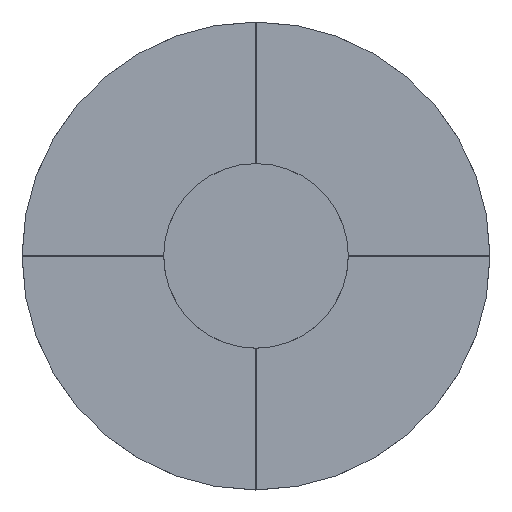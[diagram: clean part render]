
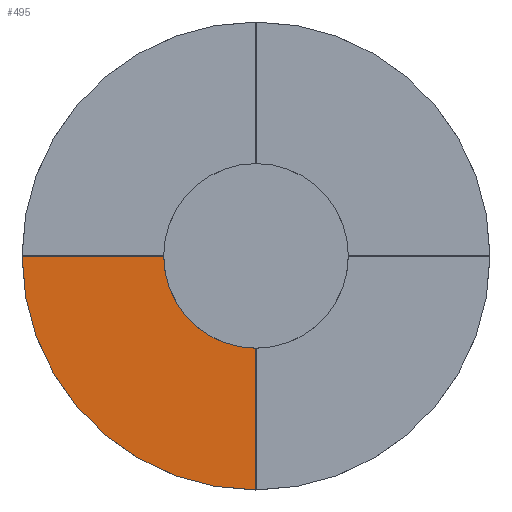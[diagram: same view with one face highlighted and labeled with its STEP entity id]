
A CAD part, top view. The second image highlights one B-rep face of the part: STEP entity #495.
In plain terms, the highlighted planar face has unit normal (0, 0, 1).
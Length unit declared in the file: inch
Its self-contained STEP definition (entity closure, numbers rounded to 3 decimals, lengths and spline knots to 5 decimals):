
#80=CARTESIAN_POINT('',(0.,0.,0.01));
#81=DIRECTION('',(0.,0.,1.));
#82=DIRECTION('',(-1.,-0.007,0.));
#83=AXIS2_PLACEMENT_3D('',#80,#81,#82);
#85=DIRECTION('',(0.,-1.,0.));
#86=VECTOR('',#85,0.109);
#87=CARTESIAN_POINT('',(-0.0005,-0.071,0.01));
#88=LINE('',#87,#86);
#89=CARTESIAN_POINT('',(0.,0.,0.01));
#90=DIRECTION('',(0.,0.,1.));
#91=DIRECTION('',(-1.,-0.003,0.));
#92=AXIS2_PLACEMENT_3D('',#89,#90,#91);
#94=DIRECTION('',(1.,0.,0.));
#95=VECTOR('',#94,0.109);
#96=CARTESIAN_POINT('',(-0.18,-0.0005,0.01));
#97=LINE('',#96,#95);
#213=CARTESIAN_POINT('',(-0.18,-0.0005,0.01));
#215=CARTESIAN_POINT('',(-0.0005,-0.18,0.01));
#307=VERTEX_POINT('',#213);
#308=VERTEX_POINT('',#215);
#327=CARTESIAN_POINT('',(-0.071,-0.0005,0.01));
#328=CARTESIAN_POINT('',(-0.0005,-0.071,0.01));
#329=VERTEX_POINT('',#327);
#330=VERTEX_POINT('',#328);
#480=CARTESIAN_POINT('',(0.,0.,0.01));
#481=DIRECTION('',(0.,0.,1.));
#482=DIRECTION('',(1.,0.,0.));
#483=AXIS2_PLACEMENT_3D('',#480,#481,#482);
#484=PLANE('',#483);
#486=ORIENTED_EDGE('',*,*,#485,.T.);
#488=ORIENTED_EDGE('',*,*,#487,.T.);
#490=ORIENTED_EDGE('',*,*,#489,.F.);
#492=ORIENTED_EDGE('',*,*,#491,.T.);
#493=EDGE_LOOP('',(#486,#488,#490,#492));
#494=FACE_OUTER_BOUND('',#493,.F.);
#495=ADVANCED_FACE('',(#494),#484,.T.);
#84=CIRCLE('',#83,0.071);
#93=CIRCLE('',#92,0.18);
#485=EDGE_CURVE('',#329,#330,#84,.T.);
#487=EDGE_CURVE('',#330,#308,#88,.T.);
#489=EDGE_CURVE('',#307,#308,#93,.T.);
#491=EDGE_CURVE('',#307,#329,#97,.T.);
